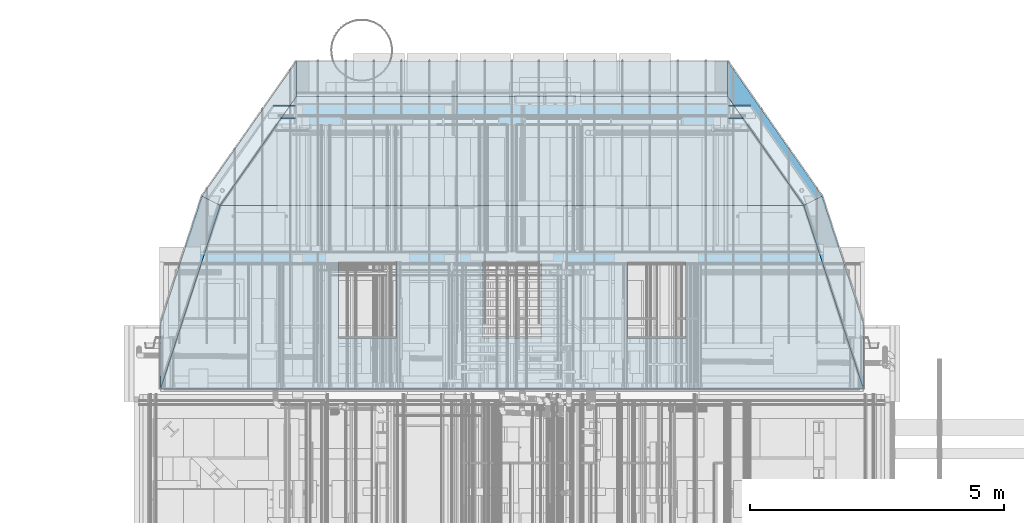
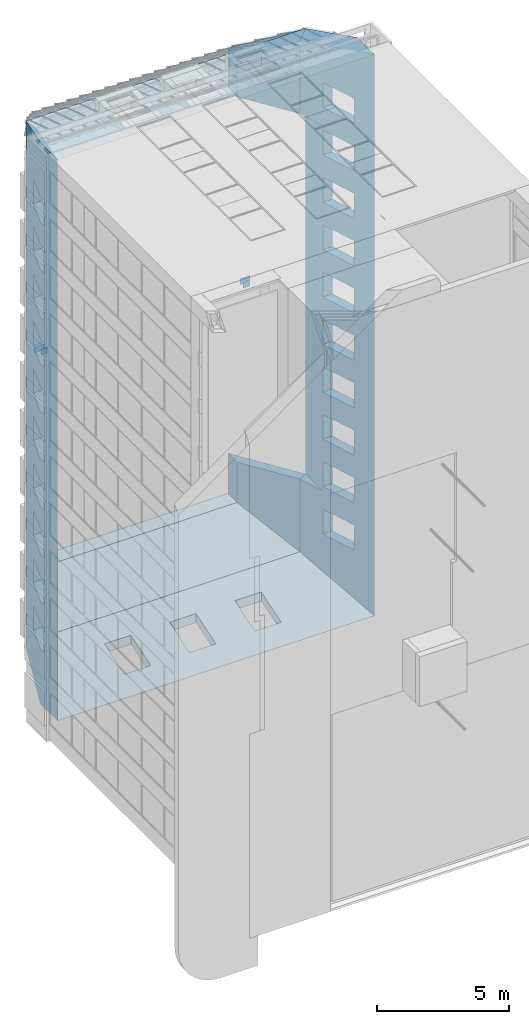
# One storey, part 35 of 583: 11 roofs, 26 openings.
"""IFC2X3 building model written with IfcOpenShell, lengths in metres."""

from ifc_helpers import new_model, entity, si_unit, converted_unit, derived_unit, money_unit, direction, frame, frame_2d, origin_with_axes, place, context, subcontext, project, spatial, rectangle, extrude, faceted_brep, material, element, save


model = new_model("IFC2X3")

# Units and contexts
model_context = context("Model", 3, precision=1e-05, world=origin_with_axes(), true_north=direction((0.0, 1.0)))
body_context = subcontext(model_context, "Body", "Model", "MODEL_VIEW", scale=1.0)
ifc_project = project(units=[si_unit("LENGTHUNIT", "METRE"), si_unit("AREAUNIT", "SQUARE_METRE"), si_unit("VOLUMEUNIT", "CUBIC_METRE"), si_unit("ABSORBEDDOSEUNIT", "GRAY"), si_unit("AMOUNTOFSUBSTANCEUNIT", "MOLE"), si_unit("DOSEEQUIVALENTUNIT", "SIEVERT"), si_unit("ELECTRICCAPACITANCEUNIT", "FARAD"), si_unit("ELECTRICCHARGEUNIT", "COULOMB"), si_unit("ELECTRICCONDUCTANCEUNIT", "SIEMENS"), si_unit("ELECTRICCURRENTUNIT", "AMPERE"), si_unit("ELECTRICRESISTANCEUNIT", "OHM"), si_unit("ELECTRICVOLTAGEUNIT", "VOLT"), si_unit("ENERGYUNIT", "JOULE"), si_unit("FORCEUNIT", "NEWTON"), si_unit("FREQUENCYUNIT", "HERTZ"), si_unit("ILLUMINANCEUNIT", "LUX"), si_unit("INDUCTANCEUNIT", "HENRY"), si_unit("LUMINOUSFLUXUNIT", "LUMEN"), si_unit("LUMINOUSINTENSITYUNIT", "CANDELA"), si_unit("MAGNETICFLUXDENSITYUNIT", "TESLA"), si_unit("MAGNETICFLUXUNIT", "WEBER"), si_unit("MASSUNIT", "GRAM"), converted_unit("PLANEANGLEUNIT", "degree", entity("IfcReal", 0.0174532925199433), si_unit("PLANEANGLEUNIT", "RADIAN"), dimensions=[0, 0, 0, 0, 0, 0, 0]), si_unit("POWERUNIT", "WATT"), si_unit("PRESSUREUNIT", "PASCAL"), si_unit("RADIOACTIVITYUNIT", "BECQUEREL"), si_unit("SOLIDANGLEUNIT", "STERADIAN"), si_unit("THERMODYNAMICTEMPERATUREUNIT", "KELVIN"), si_unit("TIMEUNIT", "SECOND"), derived_unit("ACCELERATIONUNIT", [(si_unit("LENGTHUNIT", "METRE"), 1), (si_unit("TIMEUNIT", "SECOND"), -2)]), derived_unit("ANGULARVELOCITYUNIT", [(converted_unit("PLANEANGLEUNIT", "degree", entity("IfcReal", 0.0174532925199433), si_unit("PLANEANGLEUNIT", "RADIAN"), dimensions=[0, 0, 0, 0, 0, 0, 0]), 1), (si_unit("TIMEUNIT", "SECOND"), -1)]), derived_unit("CURVATUREUNIT", [(converted_unit("PLANEANGLEUNIT", "degree", entity("IfcReal", 0.0174532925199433), si_unit("PLANEANGLEUNIT", "RADIAN"), dimensions=[0, 0, 0, 0, 0, 0, 0]), 1), (si_unit("LENGTHUNIT", "METRE"), -1)]), derived_unit("DYNAMICVISCOSITYUNIT", [(si_unit("PRESSUREUNIT", "PASCAL"), 1), (si_unit("TIMEUNIT", "SECOND"), 1)]), derived_unit("HEATFLUXDENSITYUNIT", [(si_unit("POWERUNIT", "WATT"), 1), (si_unit("LENGTHUNIT", "METRE"), -2)]), derived_unit("HEATINGVALUEUNIT", [(si_unit("ENERGYUNIT", "JOULE"), 1), (si_unit("MASSUNIT", "GRAM"), -1)]), derived_unit("INTEGERCOUNTRATEUNIT", [(si_unit("TIMEUNIT", "SECOND"), -1)]), derived_unit("IONCONCENTRATIONUNIT", [(si_unit("MASSUNIT", "GRAM"), 1), (si_unit("VOLUMEUNIT", "CUBIC_METRE"), -1)]), derived_unit("ISOTHERMALMOISTURECAPACITYUNIT", [(si_unit("VOLUMEUNIT", "CUBIC_METRE"), 1), (si_unit("MASSUNIT", "GRAM"), -1)]), derived_unit("KINEMATICVISCOSITYUNIT", [(si_unit("AREAUNIT", "SQUARE_METRE"), 1), (si_unit("TIMEUNIT", "SECOND"), -1)]), derived_unit("LINEARFORCEUNIT", [(si_unit("FORCEUNIT", "NEWTON"), 1), (si_unit("LENGTHUNIT", "METRE"), -1)]), derived_unit("LINEARMOMENTUNIT", [(si_unit("FORCEUNIT", "NEWTON"), 1), (si_unit("LENGTHUNIT", "METRE"), -1)]), derived_unit("LINEARSTIFFNESSUNIT", [(si_unit("FORCEUNIT", "NEWTON"), 1), (si_unit("LENGTHUNIT", "METRE"), -1)]), derived_unit("LINEARVELOCITYUNIT", [(si_unit("LENGTHUNIT", "METRE"), 1), (si_unit("TIMEUNIT", "SECOND"), -1)]), derived_unit("LUMINOUSINTENSITYDISTRIBUTIONUNIT", [(si_unit("LUMINOUSINTENSITYUNIT", "CANDELA"), 1), (si_unit("LUMINOUSFLUXUNIT", "LUMEN"), -1)]), derived_unit("MASSDENSITYUNIT", [(si_unit("MASSUNIT", "GRAM"), 1), (si_unit("VOLUMEUNIT", "CUBIC_METRE"), -1)]), derived_unit("MASSFLOWRATEUNIT", [(si_unit("MASSUNIT", "GRAM"), 1), (si_unit("TIMEUNIT", "SECOND"), -1)]), derived_unit("MASSPERLENGTHUNIT", [(si_unit("MASSUNIT", "GRAM"), 1), (si_unit("LENGTHUNIT", "METRE"), -1)]), derived_unit("MODULUSOFELASTICITYUNIT", [(si_unit("FORCEUNIT", "NEWTON"), 1), (si_unit("AREAUNIT", "SQUARE_METRE"), -1)]), derived_unit("MODULUSOFLINEARSUBGRADEREACTIONUNIT", [(si_unit("FORCEUNIT", "NEWTON"), 1), (si_unit("LENGTHUNIT", "METRE"), -2)]), derived_unit("MODULUSOFROTATIONALSUBGRADEREACTIONUNIT", [(si_unit("FORCEUNIT", "NEWTON"), 1), (si_unit("LENGTHUNIT", "METRE"), 1)]), derived_unit("MODULUSOFSUBGRADEREACTIONUNIT", [(si_unit("FORCEUNIT", "NEWTON"), 1), (si_unit("VOLUMEUNIT", "CUBIC_METRE"), -1)]), derived_unit("MOISTUREDIFFUSIVITYUNIT", [(si_unit("VOLUMEUNIT", "CUBIC_METRE"), 1), (si_unit("TIMEUNIT", "SECOND"), -1)]), derived_unit("MOLECULARWEIGHTUNIT", [(si_unit("MASSUNIT", "GRAM"), 1), (si_unit("AMOUNTOFSUBSTANCEUNIT", "MOLE"), -1)]), derived_unit("PLANARFORCEUNIT", [(si_unit("FORCEUNIT", "NEWTON"), 1), (si_unit("LENGTHUNIT", "METRE"), -2)]), derived_unit("ROTATIONALFREQUENCYUNIT", [(si_unit("TIMEUNIT", "SECOND"), -1)]), derived_unit("ROTATIONALMASSUNIT", [(si_unit("MASSUNIT", "GRAM"), 1), (si_unit("LENGTHUNIT", "METRE"), 2)]), derived_unit("ROTATIONALSTIFFNESSUNIT", [(si_unit("FORCEUNIT", "NEWTON"), 1), (si_unit("LENGTHUNIT", "METRE"), 1), (converted_unit("PLANEANGLEUNIT", "degree", entity("IfcReal", 0.0174532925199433), si_unit("PLANEANGLEUNIT", "RADIAN"), dimensions=[0, 0, 0, 0, 0, 0, 0]), -1)]), derived_unit("SECTIONAREAINTEGRALUNIT", [(si_unit("LENGTHUNIT", "METRE"), 5)]), derived_unit("SECTIONMODULUSUNIT", [(si_unit("LENGTHUNIT", "METRE"), 3)]), derived_unit("SHEARMODULUSUNIT", [(si_unit("FORCEUNIT", "NEWTON"), 1), (si_unit("AREAUNIT", "SQUARE_METRE"), -1)]), derived_unit("SOUNDPOWERUNIT", [(si_unit("ENERGYUNIT", "JOULE"), 1), (si_unit("TIMEUNIT", "SECOND"), -1)]), derived_unit("SPECIFICHEATCAPACITYUNIT", [(si_unit("FORCEUNIT", "NEWTON"), 1), (si_unit("MASSUNIT", "GRAM"), -1), (si_unit("THERMODYNAMICTEMPERATUREUNIT", "KELVIN"), -1)]), derived_unit("TEMPERATUREGRADIENTUNIT", [(si_unit("THERMODYNAMICTEMPERATUREUNIT", "KELVIN"), 1), (si_unit("LENGTHUNIT", "METRE"), -1)]), derived_unit("THERMALADMITTANCEUNIT", [(si_unit("POWERUNIT", "WATT"), 1), (si_unit("AREAUNIT", "SQUARE_METRE"), -1), (si_unit("THERMODYNAMICTEMPERATUREUNIT", "KELVIN"), -1)]), derived_unit("THERMALCONDUCTANCEUNIT", [(si_unit("POWERUNIT", "WATT"), 1), (si_unit("LENGTHUNIT", "METRE"), -1), (si_unit("THERMODYNAMICTEMPERATUREUNIT", "KELVIN"), -1)]), derived_unit("THERMALEXPANSIONCOEFFICIENTUNIT", [(si_unit("THERMODYNAMICTEMPERATUREUNIT", "KELVIN"), -1)]), derived_unit("THERMALRESISTANCEUNIT", [(si_unit("AREAUNIT", "SQUARE_METRE"), 1), (si_unit("POWERUNIT", "WATT"), -1)]), derived_unit("THERMALTRANSMITTANCEUNIT", [(si_unit("POWERUNIT", "WATT"), 1), (si_unit("AREAUNIT", "SQUARE_METRE"), -1), (si_unit("THERMODYNAMICTEMPERATUREUNIT", "KELVIN"), -1)]), derived_unit("TORQUEUNIT", [(si_unit("FORCEUNIT", "NEWTON"), 1), (si_unit("LENGTHUNIT", "METRE"), 1)]), derived_unit("VAPORPERMEABILITYUNIT", [(si_unit("MASSUNIT", "GRAM"), 1), (si_unit("TIMEUNIT", "SECOND"), -1)]), derived_unit("VOLUMETRICFLOWRATEUNIT", [(si_unit("VOLUMEUNIT", "CUBIC_METRE"), 1), (si_unit("TIMEUNIT", "SECOND"), -1)]), derived_unit("WARPINGCONSTANTUNIT", [(si_unit("LENGTHUNIT", "METRE"), 6)]), derived_unit("WARPINGMOMENTUNIT", [(si_unit("FORCEUNIT", "NEWTON"), 1), (si_unit("LENGTHUNIT", "METRE"), 2)]), money_unit("GBP")], contexts=[model_context])

# Site, building, storey
site_placement = place(None, origin_with_axes())
site = spatial("IfcSite", under=ifc_project, at=site_placement, Name="Site", CompositionType="ELEMENT")
building_placement = place(site_placement, origin_with_axes())
building = spatial("IfcBuilding", under=site, at=building_placement, Name="Building01", CompositionType="ELEMENT")
storey_placement = place(building_placement, frame((0.0, 0.0, 20.78), z_axis=(0.0, 0.0, 1.0), x_axis=(1.0, 0.0, 0.0)))
storey = spatial("IfcBuildingStorey", under=building, at=storey_placement, Name="RL", CompositionType="ELEMENT", Elevation=20.78)

# Roofs
ifc_material = material(Name="A_BSUK_Roofs")
roof_1_placement = place(storey_placement, frame((2.740555, 20.5772, -7.40955), z_axis=(1.0, 0.0, 0.0), x_axis=(0.0, 0.0, 1.0)))
element("IfcRoof", 1, at=roof_1_placement, inside=storey, material=ifc_material, Name="A-ZeeProfile01", ObjectType="A-ZeeProfile01", ShapeType="FREEFORM", context=body_context, shape_type="SweptSolid", body=[
    extrude(rectangle(XDim=0.2591, YDim=0.025, at=frame_2d((0.12955, 0.0125), x_axis=(1.0, 0.0))), origin_with_axes(), (0.0, 0.0, 1.0), 0.434384),
])
roof_2_placement = place(storey_placement, frame((2.892824, 20.33, -7.40955), z_axis=(1.0, 0.0, 0.0), x_axis=(0.0, 0.0, 1.0)))
element("IfcRoof", 2, at=roof_2_placement, inside=storey, material=ifc_material, Name="A-ZeeProfile01", ObjectType="A-ZeeProfile01", ShapeType="FREEFORM", context=body_context, shape_type="SweptSolid", body=[
    extrude(rectangle(XDim=0.2591, YDim=0.025, at=frame_2d((0.12955, 0.0125), x_axis=(1.0, 0.0))), origin_with_axes(), (0.0, 0.0, 1.0), 0.282115),
])
roof_3_placement = place(storey_placement, frame((12.159445, 20.5772, -7.40955), z_axis=(-1.0, 0.0, 0.0), x_axis=(0.0, 0.0, -1.0)))
element("IfcRoof", 3, at=roof_3_placement, inside=storey, material=ifc_material, Name="A-ZeeProfile01", ObjectType="A-ZeeProfile01", ShapeType="FREEFORM", context=body_context, shape_type="SweptSolid", body=[
    extrude(rectangle(XDim=0.2591, YDim=0.025, at=frame_2d((-0.12955, 0.0125), x_axis=(-1.0, 0.0))), origin_with_axes(), (0.0, 0.0, 1.0), 0.434384),
])
roof_4_placement = place(storey_placement, frame((12.007176, 20.33, -7.40955), z_axis=(-1.0, 0.0, 0.0), x_axis=(0.0, 0.0, -1.0)))
element("IfcRoof", 4, at=roof_4_placement, inside=storey, material=ifc_material, Name="A-ZeeProfile01", ObjectType="A-ZeeProfile01", ShapeType="FREEFORM", context=body_context, shape_type="SweptSolid", body=[
    extrude(rectangle(XDim=0.2591, YDim=0.025, at=frame_2d((-0.12955, 0.0125), x_axis=(-1.0, 0.0))), origin_with_axes(), (0.0, 0.0, 1.0), 0.282115),
])

# Roof, openings
roof_5_placement = place(storey_placement, frame((13.203791, 14.98, -20.26), z_axis=(0.0, 0.0, 1.0), x_axis=(1.0, 0.0, 0.0)))
roof_5 = element("IfcRoof", 5, at=roof_5_placement, inside=storey, material=ifc_material, Name="A-Roofs--A_BSUK_Roofs", ObjectType="A-Roofs:A_BSUK_Roofs", ShapeType="FREEFORM", context=body_context, shape_type="Brep", body=[
    faceted_brep([(0.361949, 3.800461, 21.419976), (0.0, 3.62, 21.419976), (0.0, 3.62, 24.763791), (0.361949, 3.800461, 25.12574), (0.361949, 2.506034, 21.419976), (0.361949, 2.506034, 4.540025), (0.0, 3.62, 4.540025), (0.0, 3.62, 1.176209), (1.176209, 0.0, 0.0), (1.176209, 0.0, 25.94), (1.176209, 1.294427, 25.94), (1.176209, 1.294427, 0.0), (0.361949, 3.800461, 0.81426), (0.361949, 3.800461, 4.540025)], [[[0, 1, 2, 3]], [[4, 5, 6, 7, 8, 9, 2, 1]], [[10, 11, 12, 13, 0, 3]], [[2, 9, 10, 3]], [[6, 13, 12, 7]], [[8, 7, 12, 11]], [[10, 9, 8, 11]], [[4, 0, 13, 5]], [[1, 0, 4]], [[5, 13, 6]]]),
])
opening_1_placement = place(roof_5_placement, frame((1.19627, 1.0, 22.260024), z_axis=(0.0, 0.0, 1.0), x_axis=(1.0, 0.0, 0.0)))
element("IfcOpeningElement", 6, at=opening_1_placement, cuts=roof_5, Name="Opening", ObjectType="Opening", context=body_context, shape_type="SweptSolid", body=[
    extrude(rectangle(XDim=1.5, YDim=1.15, at=frame_2d((-0.75, 0.575), x_axis=(1.0, 0.0))), frame((28.868623, 0.0, 0.0), z_axis=(-1.0, 0.0, 0.0), x_axis=(0.0, -1.0, 0.0)), (0.0, 0.0, 1.0), 57.737246),
])
opening_2_placement = place(roof_5_placement, frame((1.19627, 1.0, 20.069976), z_axis=(0.0, 0.0, 1.0), x_axis=(1.0, 0.0, 0.0)))
element("IfcOpeningElement", 7, at=opening_2_placement, cuts=roof_5, Name="Opening", ObjectType="Opening", context=body_context, shape_type="SweptSolid", body=[
    extrude(rectangle(XDim=1.5, YDim=1.15, at=frame_2d((-0.75, 0.575), x_axis=(1.0, 0.0))), frame((28.868623, 0.0, 0.0), z_axis=(-1.0, 0.0, 0.0), x_axis=(0.0, -1.0, 0.0)), (0.0, 0.0, 1.0), 57.737246),
])
opening_3_placement = place(roof_5_placement, frame((1.19627, 1.0, 17.879976), z_axis=(0.0, 0.0, 1.0), x_axis=(1.0, 0.0, 0.0)))
element("IfcOpeningElement", 8, at=opening_3_placement, cuts=roof_5, Name="Opening", ObjectType="Opening", context=body_context, shape_type="SweptSolid", body=[
    extrude(rectangle(XDim=1.5, YDim=1.15, at=frame_2d((-0.75, 0.575), x_axis=(1.0, 0.0))), frame((28.868623, 0.0, 0.0), z_axis=(-1.0, 0.0, 0.0), x_axis=(0.0, -1.0, 0.0)), (0.0, 0.0, 1.0), 57.737246),
])
opening_4_placement = place(roof_5_placement, frame((1.19627, 1.0, 15.689976), z_axis=(0.0, 0.0, 1.0), x_axis=(1.0, 0.0, 0.0)))
element("IfcOpeningElement", 9, at=opening_4_placement, cuts=roof_5, Name="Opening", ObjectType="Opening", context=body_context, shape_type="SweptSolid", body=[
    extrude(rectangle(XDim=1.5, YDim=1.15, at=frame_2d((-0.75, 0.575), x_axis=(1.0, 0.0))), frame((28.868623, 0.0, 0.0), z_axis=(-1.0, 0.0, 0.0), x_axis=(0.0, -1.0, 0.0)), (0.0, 0.0, 1.0), 57.737246),
])
opening_5_placement = place(roof_5_placement, frame((1.19627, 1.0, 13.499976), z_axis=(0.0, 0.0, 1.0), x_axis=(1.0, 0.0, 0.0)))
element("IfcOpeningElement", 10, at=opening_5_placement, cuts=roof_5, Name="Opening", ObjectType="Opening", context=body_context, shape_type="SweptSolid", body=[
    extrude(rectangle(XDim=1.5, YDim=1.15, at=frame_2d((-0.75, 0.575), x_axis=(1.0, 0.0))), frame((28.868623, 0.0, 0.0), z_axis=(-1.0, 0.0, 0.0), x_axis=(0.0, -1.0, 0.0)), (0.0, 0.0, 1.0), 57.737246),
])
opening_6_placement = place(roof_5_placement, frame((1.19627, 1.0, 11.309976), z_axis=(0.0, 0.0, 1.0), x_axis=(1.0, 0.0, 0.0)))
element("IfcOpeningElement", 11, at=opening_6_placement, cuts=roof_5, Name="Opening", ObjectType="Opening", context=body_context, shape_type="SweptSolid", body=[
    extrude(rectangle(XDim=1.5, YDim=1.15, at=frame_2d((-0.75, 0.575), x_axis=(1.0, 0.0))), frame((28.868623, 0.0, 0.0), z_axis=(-1.0, 0.0, 0.0), x_axis=(0.0, -1.0, 0.0)), (0.0, 0.0, 1.0), 57.737246),
])
opening_7_placement = place(roof_5_placement, frame((1.19627, 1.0, 9.119976), z_axis=(0.0, 0.0, 1.0), x_axis=(1.0, 0.0, 0.0)))
element("IfcOpeningElement", 12, at=opening_7_placement, cuts=roof_5, Name="Opening", ObjectType="Opening", context=body_context, shape_type="SweptSolid", body=[
    extrude(rectangle(XDim=1.5, YDim=1.15, at=frame_2d((-0.75, 0.575), x_axis=(1.0, 0.0))), frame((28.868623, 0.0, 0.0), z_axis=(-1.0, 0.0, 0.0), x_axis=(0.0, -1.0, 0.0)), (0.0, 0.0, 1.0), 57.737246),
])
opening_8_placement = place(roof_5_placement, frame((1.19627, 1.0, 6.929976), z_axis=(0.0, 0.0, 1.0), x_axis=(1.0, 0.0, 0.0)))
element("IfcOpeningElement", 13, at=opening_8_placement, cuts=roof_5, Name="Opening", ObjectType="Opening", context=body_context, shape_type="SweptSolid", body=[
    extrude(rectangle(XDim=1.5, YDim=1.15, at=frame_2d((-0.75, 0.575), x_axis=(1.0, 0.0))), frame((28.868623, 0.0, 0.0), z_axis=(-1.0, 0.0, 0.0), x_axis=(0.0, -1.0, 0.0)), (0.0, 0.0, 1.0), 57.737246),
])
opening_9_placement = place(roof_5_placement, frame((1.19627, 1.0, 4.739976), z_axis=(0.0, 0.0, 1.0), x_axis=(1.0, 0.0, 0.0)))
element("IfcOpeningElement", 14, at=opening_9_placement, cuts=roof_5, Name="Opening", ObjectType="Opening", context=body_context, shape_type="SweptSolid", body=[
    extrude(rectangle(XDim=1.5, YDim=1.15, at=frame_2d((-0.75, 0.575), x_axis=(1.0, 0.0))), frame((28.868623, 0.0, 0.0), z_axis=(-1.0, 0.0, 0.0), x_axis=(0.0, -1.0, 0.0)), (0.0, 0.0, 1.0), 57.737246),
])
opening_10_placement = place(roof_5_placement, frame((1.19627, 1.0, 2.549976), z_axis=(0.0, 0.0, 1.0), x_axis=(1.0, 0.0, 0.0)))
element("IfcOpeningElement", 15, at=opening_10_placement, cuts=roof_5, Name="Opening", ObjectType="Opening", context=body_context, shape_type="SweptSolid", body=[
    extrude(rectangle(XDim=1.5, YDim=1.15, at=frame_2d((-0.75, 0.575), x_axis=(1.0, 0.0))), frame((28.868623, 0.0, 0.0), z_axis=(-1.0, 0.0, 0.0), x_axis=(0.0, -1.0, 0.0)), (0.0, 0.0, 1.0), 57.737246),
])

roof_6_placement = place(storey_placement, frame((0.52, 14.98, 4.503791), z_axis=(0.0, 0.0, 1.0), x_axis=(1.0, 0.0, 0.0)))
roof_6 = element("IfcRoof", 16, at=roof_6_placement, inside=storey, material=ifc_material, Name="A-Roofs--A_BSUK_Roofs", ObjectType="A-Roofs:A_BSUK_Roofs", ShapeType="FREEFORM", context=body_context, shape_type="Brep", body=[
    faceted_brep([(1.176209, 3.62, 0.0), (12.683791, 3.62, 0.0), (13.86, 0.0, 1.176209), (0.0, 0.0, 1.176209), (0.0, 1.294427, 1.176209), (13.86, 1.294427, 1.176209), (13.04574, 3.800461, 0.361949), (0.81426, 3.800461, 0.361949)], [[[0, 1, 2, 3]], [[4, 5, 6, 7]], [[0, 3, 4, 7]], [[1, 0, 7, 6]], [[2, 1, 6, 5]], [[4, 3, 2, 5]]]),
])
opening_11_placement = place(roof_6_placement, frame((3.504915, 1.0, 1.19627), z_axis=(0.0, 0.0, 1.0), x_axis=(1.0, 0.0, 0.0)))
element("IfcOpeningElement", 17, at=opening_11_placement, cuts=roof_6, Name="Opening", ObjectType="Opening", context=body_context, shape_type="SweptSolid", body=[
    extrude(rectangle(XDim=1.5, YDim=1.15, at=frame_2d((-0.575, 0.75), x_axis=(0.0, -1.0))), frame((0.0, 0.0, 15.86344), z_axis=(0.0, 0.0, -1.0), x_axis=(-1.0, 0.0, 0.0)), (0.0, 0.0, 1.0), 31.726881),
])
opening_12_placement = place(roof_6_placement, frame((6.354964, 1.0, 1.19627), z_axis=(0.0, 0.0, 1.0), x_axis=(1.0, 0.0, 0.0)))
element("IfcOpeningElement", 18, at=opening_12_placement, cuts=roof_6, Name="Opening", ObjectType="Opening", context=body_context, shape_type="SweptSolid", body=[
    extrude(rectangle(XDim=1.5, YDim=1.15, at=frame_2d((-0.575, 0.75), x_axis=(0.0, -1.0))), frame((0.0, 0.0, 15.86344), z_axis=(0.0, 0.0, -1.0), x_axis=(-1.0, 0.0, 0.0)), (0.0, 0.0, 1.0), 31.726881),
])
opening_13_placement = place(roof_6_placement, frame((9.204964, 1.0, 1.19627), z_axis=(0.0, 0.0, 1.0), x_axis=(1.0, 0.0, 0.0)))
element("IfcOpeningElement", 19, at=opening_13_placement, cuts=roof_6, Name="Opening", ObjectType="Opening", context=body_context, shape_type="SweptSolid", body=[
    extrude(rectangle(XDim=1.5, YDim=1.15, at=frame_2d((-0.575, 0.75), x_axis=(0.0, -1.0))), frame((0.0, 0.0, 15.86344), z_axis=(0.0, 0.0, -1.0), x_axis=(-1.0, 0.0, 0.0)), (0.0, 0.0, 1.0), 31.726881),
])

placement = place(storey_placement, frame((0.52, 14.98, -20.26), z_axis=(0.0, 0.0, 1.0), x_axis=(1.0, 0.0, 0.0)))
roof_7 = element("IfcRoof", 20, at=placement, inside=storey, material=ifc_material, Name="A-Roofs--A_BSUK_Roofs", ObjectType="A-Roofs:A_BSUK_Roofs", ShapeType="FREEFORM", context=body_context, shape_type="Brep", body=[
    faceted_brep([(1.176209, 3.62, 21.419976), (0.81426, 3.800461, 21.419976), (0.81426, 3.800461, 25.12574), (1.176209, 3.62, 24.763791), (0.0, 0.0, 25.94), (0.0, 0.0, 0.0), (1.176209, 3.62, 1.176209), (1.176209, 3.62, 4.540024), (0.81426, 2.506034, 4.540024), (0.81426, 2.506034, 21.419976), (0.0, 1.294427, 0.0), (0.0, 1.294427, 25.94), (0.81426, 3.800461, 4.540024), (0.81426, 3.800461, 0.81426)], [[[0, 1, 2, 3]], [[0, 3, 4, 5, 6, 7, 8, 9]], [[10, 11, 2, 1, 12, 13]], [[6, 5, 10, 13]], [[12, 7, 6, 13]], [[4, 3, 2, 11]], [[10, 5, 4, 11]], [[8, 12, 1, 9]], [[9, 1, 0]], [[7, 12, 8]]]),
])
opening_14_placement = place(placement, frame((-0.12, 1.0, 2.550024), z_axis=(0.0, 0.0, 1.0), x_axis=(1.0, 0.0, 0.0)))
element("IfcOpeningElement", 21, at=opening_14_placement, cuts=roof_7, Name="Opening", ObjectType="Opening", context=body_context, shape_type="SweptSolid", body=[
    extrude(rectangle(XDim=1.5, YDim=1.15, at=frame_2d((-0.75, 0.575), x_axis=(1.0, 0.0))), frame((28.873843, 0.0, 0.0), z_axis=(-1.0, 0.0, 0.0), x_axis=(0.0, -1.0, 0.0)), (0.0, 0.0, 1.0), 57.747685),
])
opening_15_placement = place(placement, frame((-0.12, 1.0, 4.740024), z_axis=(0.0, 0.0, 1.0), x_axis=(1.0, 0.0, 0.0)))
element("IfcOpeningElement", 22, at=opening_15_placement, cuts=roof_7, Name="Opening", ObjectType="Opening", context=body_context, shape_type="SweptSolid", body=[
    extrude(rectangle(XDim=1.5, YDim=1.15, at=frame_2d((-0.75, 0.575), x_axis=(1.0, 0.0))), frame((28.873843, 0.0, 0.0), z_axis=(-1.0, 0.0, 0.0), x_axis=(0.0, -1.0, 0.0)), (0.0, 0.0, 1.0), 57.747685),
])
opening_16_placement = place(placement, frame((-0.12, 1.0, 6.930024), z_axis=(0.0, 0.0, 1.0), x_axis=(1.0, 0.0, 0.0)))
element("IfcOpeningElement", 23, at=opening_16_placement, cuts=roof_7, Name="Opening", ObjectType="Opening", context=body_context, shape_type="SweptSolid", body=[
    extrude(rectangle(XDim=1.5, YDim=1.15, at=frame_2d((-0.75, 0.575), x_axis=(1.0, 0.0))), frame((28.873843, 0.0, 0.0), z_axis=(-1.0, 0.0, 0.0), x_axis=(0.0, -1.0, 0.0)), (0.0, 0.0, 1.0), 57.747685),
])
opening_17_placement = place(placement, frame((-0.12, 1.0, 9.120024), z_axis=(0.0, 0.0, 1.0), x_axis=(1.0, 0.0, 0.0)))
element("IfcOpeningElement", 24, at=opening_17_placement, cuts=roof_7, Name="Opening", ObjectType="Opening", context=body_context, shape_type="SweptSolid", body=[
    extrude(rectangle(XDim=1.5, YDim=1.15, at=frame_2d((-0.75, 0.575), x_axis=(1.0, 0.0))), frame((28.873843, 0.0, 0.0), z_axis=(-1.0, 0.0, 0.0), x_axis=(0.0, -1.0, 0.0)), (0.0, 0.0, 1.0), 57.747685),
])
opening_18_placement = place(placement, frame((-0.12, 1.0, 11.310024), z_axis=(0.0, 0.0, 1.0), x_axis=(1.0, 0.0, 0.0)))
element("IfcOpeningElement", 25, at=opening_18_placement, cuts=roof_7, Name="Opening", ObjectType="Opening", context=body_context, shape_type="SweptSolid", body=[
    extrude(rectangle(XDim=1.5, YDim=1.15, at=frame_2d((-0.75, 0.575), x_axis=(1.0, 0.0))), frame((28.873843, 0.0, 0.0), z_axis=(-1.0, 0.0, 0.0), x_axis=(0.0, -1.0, 0.0)), (0.0, 0.0, 1.0), 57.747685),
])
opening_19_placement = place(placement, frame((-0.12, 1.0, 13.500024), z_axis=(0.0, 0.0, 1.0), x_axis=(1.0, 0.0, 0.0)))
element("IfcOpeningElement", 26, at=opening_19_placement, cuts=roof_7, Name="Opening", ObjectType="Opening", context=body_context, shape_type="SweptSolid", body=[
    extrude(rectangle(XDim=1.5, YDim=1.15, at=frame_2d((-0.75, 0.575), x_axis=(1.0, 0.0))), frame((28.873843, 0.0, 0.0), z_axis=(-1.0, 0.0, 0.0), x_axis=(0.0, -1.0, 0.0)), (0.0, 0.0, 1.0), 57.747685),
])
opening_20_placement = place(placement, frame((-0.12, 1.0, 15.690024), z_axis=(0.0, 0.0, 1.0), x_axis=(1.0, 0.0, 0.0)))
element("IfcOpeningElement", 27, at=opening_20_placement, cuts=roof_7, Name="Opening", ObjectType="Opening", context=body_context, shape_type="SweptSolid", body=[
    extrude(rectangle(XDim=1.5, YDim=1.15, at=frame_2d((-0.75, 0.575), x_axis=(1.0, 0.0))), frame((28.873843, 0.0, 0.0), z_axis=(-1.0, 0.0, 0.0), x_axis=(0.0, -1.0, 0.0)), (0.0, 0.0, 1.0), 57.747685),
])
opening_21_placement = place(placement, frame((-0.12, 1.0, 17.880024), z_axis=(0.0, 0.0, 1.0), x_axis=(1.0, 0.0, 0.0)))
element("IfcOpeningElement", 28, at=opening_21_placement, cuts=roof_7, Name="Opening", ObjectType="Opening", context=body_context, shape_type="SweptSolid", body=[
    extrude(rectangle(XDim=1.5, YDim=1.15, at=frame_2d((-0.75, 0.575), x_axis=(1.0, 0.0))), frame((28.873843, 0.0, 0.0), z_axis=(-1.0, 0.0, 0.0), x_axis=(0.0, -1.0, 0.0)), (0.0, 0.0, 1.0), 57.747685),
])
opening_22_placement = place(placement, frame((-0.12, 1.0, 20.070024), z_axis=(0.0, 0.0, 1.0), x_axis=(1.0, 0.0, 0.0)))
element("IfcOpeningElement", 29, at=opening_22_placement, cuts=roof_7, Name="Opening", ObjectType="Opening", context=body_context, shape_type="SweptSolid", body=[
    extrude(rectangle(XDim=1.5, YDim=1.15, at=frame_2d((-0.75, 0.575), x_axis=(1.0, 0.0))), frame((28.873843, 0.0, 0.0), z_axis=(-1.0, 0.0, 0.0), x_axis=(0.0, -1.0, 0.0)), (0.0, 0.0, 1.0), 57.747685),
])
opening_23_placement = place(placement, frame((-0.12, 1.0, 22.260024), z_axis=(0.0, 0.0, 1.0), x_axis=(1.0, 0.0, 0.0)))
element("IfcOpeningElement", 30, at=opening_23_placement, cuts=roof_7, Name="Opening", ObjectType="Opening", context=body_context, shape_type="SweptSolid", body=[
    extrude(rectangle(XDim=1.5, YDim=1.15, at=frame_2d((-0.75, 0.575), x_axis=(1.0, 0.0))), frame((28.873843, 0.0, 0.0), z_axis=(-1.0, 0.0, 0.0), x_axis=(0.0, -1.0, 0.0)), (0.0, 0.0, 1.0), 57.747685),
])

roof_8 = element("IfcRoof", 31, at=placement, inside=storey, material=ifc_material, Name="A-Roofs--A_BSUK_Roofs", ObjectType="A-Roofs:A_BSUK_Roofs", ShapeType="FREEFORM", context=body_context, shape_type="Brep", body=[
    faceted_brep([(12.683791, 3.62, 1.176209), (1.176209, 3.62, 1.176209), (0.0, 0.0, 0.0), (13.86, 0.0, 0.0), (13.86, 1.294427, 0.0), (0.0, 1.294427, 0.0), (0.81426, 3.800461, 0.81426), (13.04574, 3.800461, 0.81426)], [[[0, 1, 2, 3]], [[4, 5, 6, 7]], [[0, 3, 4, 7]], [[1, 0, 7, 6]], [[2, 1, 6, 5]], [[4, 3, 2, 5]]]),
])
opening_24_placement = place(placement, frame((9.204915, 1.0, -0.020096), z_axis=(0.0, 0.0, 1.0), x_axis=(1.0, 0.0, 0.0)))
element("IfcOpeningElement", 32, at=opening_24_placement, cuts=roof_8, Name="Opening", ObjectType="Opening", context=body_context, shape_type="SweptSolid", body=[
    extrude(rectangle(XDim=1.5, YDim=1.15, at=frame_2d((0.575, 0.75), x_axis=(0.0, -1.0))), frame((0.0, 0.0, -15.863444), z_axis=(0.0, 0.0, 1.0), x_axis=(1.0, 0.0, 0.0)), (0.0, 0.0, 1.0), 31.726887),
])
opening_25_placement = place(placement, frame((6.354915, 1.0, -0.020096), z_axis=(0.0, 0.0, 1.0), x_axis=(1.0, 0.0, 0.0)))
element("IfcOpeningElement", 33, at=opening_25_placement, cuts=roof_8, Name="Opening", ObjectType="Opening", context=body_context, shape_type="SweptSolid", body=[
    extrude(rectangle(XDim=1.5, YDim=1.15, at=frame_2d((0.575, 0.75), x_axis=(0.0, -1.0))), frame((0.0, 0.0, -15.863444), z_axis=(0.0, 0.0, 1.0), x_axis=(1.0, 0.0, 0.0)), (0.0, 0.0, 1.0), 31.726887),
])
opening_26_placement = place(placement, frame((3.504915, 1.0, -0.020096), z_axis=(0.0, 0.0, 1.0), x_axis=(1.0, 0.0, 0.0)))
element("IfcOpeningElement", 34, at=opening_26_placement, cuts=roof_8, Name="Opening", ObjectType="Opening", context=body_context, shape_type="SweptSolid", body=[
    extrude(rectangle(XDim=1.5, YDim=1.15, at=frame_2d((0.575, 0.75), x_axis=(0.0, -1.0))), frame((0.0, 0.0, -15.863444), z_axis=(0.0, 0.0, 1.0), x_axis=(1.0, 0.0, 0.0)), (0.0, 0.0, 1.0), 31.726887),
])

# Roofs
roof_9_placement = place(storey_placement, frame((7.45, 18.6, -19.44574), z_axis=(0.0, 0.0, 1.0), x_axis=(1.0, 0.0, 0.0)))
element("IfcRoof", 35, at=roof_9_placement, inside=storey, material=ifc_material, Name="A-Roofs--A_BSUK_Roofs", ObjectType="A-Roofs:A_BSUK_Roofs", ShapeType="FREEFORM", context=body_context, shape_type="Brep", body=[
    faceted_brep([(6.11574, 0.180461, 3.725765), (5.753791, 0.0, 3.725765), (5.753791, 0.0, 0.361949), (6.11574, 0.180461, 0.0), (4.249939, 2.147722, 1.865801), (4.249939, 2.845101, 1.865801), (4.249939, 2.845101, 3.725765), (4.249939, 2.147722, 3.725765)], [[[0, 1, 2, 3]], [[4, 5, 3, 2]], [[5, 6, 0, 3]], [[4, 2, 1, 7]], [[1, 0, 6, 7]], [[7, 6, 5, 4]]]),
    faceted_brep([(5.753791, 0.0, 20.605716), (5.753791, 0.0, 23.949531), (4.249939, 2.147722, 22.44568), (4.249939, 2.147722, 20.605716), (6.11574, 0.180461, 20.605716), (4.249939, 2.845101, 20.605716), (4.249939, 2.845101, 22.44568), (6.11574, 0.180461, 24.31148)], [[[0, 1, 2, 3]], [[4, 5, 6, 7]], [[0, 4, 7, 1]], [[6, 2, 1, 7]], [[3, 5, 4, 0]], [[2, 6, 5, 3]]]),
])
roof_10_placement = place(storey_placement, frame((1.33426, 18.6, -1.25), z_axis=(0.0, 0.0, 1.0), x_axis=(1.0, 0.0, 0.0)))
element("IfcRoof", 36, at=roof_10_placement, inside=storey, material=ifc_material, Name="A-Roofs--A_BSUK_Roofs", ObjectType="A-Roofs:A_BSUK_Roofs", ShapeType="FREEFORM", context=body_context, shape_type="Brep", body=[
    faceted_brep([(10.36568, 2.147722, 4.249939), (11.869531, 0.0, 5.753791), (0.361949, 0.0, 5.753791), (1.86568, 2.147549, 4.250061), (10.36568, 2.147549, 4.250061), (10.36568, 2.845101, 4.249939), (10.36568, 2.844928, 4.250061), (1.86568, 2.844928, 4.250061), (0.0, 0.180461, 6.11574), (12.23148, 0.180461, 6.11574)], [[[0, 1, 2, 3, 4]], [[5, 6, 7, 8, 9]], [[7, 3, 2, 8]], [[0, 5, 9, 1]], [[8, 2, 1, 9]], [[3, 7, 6, 4]], [[4, 6, 5, 0]]]),
])
roof_11_placement = place(storey_placement, frame((1.33426, 18.6, -19.44574), z_axis=(0.0, 0.0, 1.0), x_axis=(1.0, 0.0, 0.0)))
element("IfcRoof", 37, at=roof_11_placement, inside=storey, material=ifc_material, Name="A-Roofs--A_BSUK_Roofs", ObjectType="A-Roofs:A_BSUK_Roofs", ShapeType="FREEFORM", context=body_context, shape_type="Brep", body=[
    faceted_brep([(1.86574, 2.147636, 1.86574), (0.361949, 0.0, 0.361949), (11.869531, 0.0, 0.361949), (10.36568, 2.147722, 1.865801), (10.36568, 2.147636, 1.86574), (1.86574, 2.845014, 1.86574), (10.36568, 2.845014, 1.86574), (10.36568, 2.845101, 1.865801), (12.23148, 0.180461, 0.0), (0.0, 0.180461, 0.0)], [[[0, 1, 2, 3, 4]], [[5, 6, 7, 8, 9]], [[7, 3, 2, 8]], [[0, 5, 9, 1]], [[8, 2, 1, 9]], [[4, 6, 5, 0]], [[3, 7, 6, 4]]]),
])

save(model, "model.ifc")
